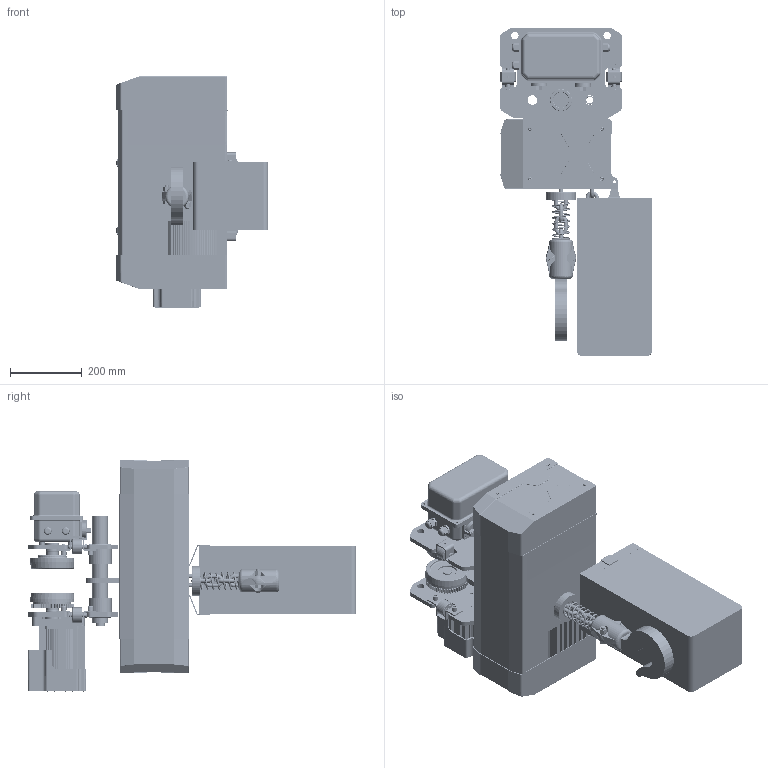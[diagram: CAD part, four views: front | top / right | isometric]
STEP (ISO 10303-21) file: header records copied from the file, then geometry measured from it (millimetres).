
FILE_DESCRIPTION(/* description */ ('CAx-IF Rec.Pracs.---Representation and Presentation of Product Manufacturing Information (PMI)---4.0---2014-10-13','CAx-IF Rec.Pracs.---3D Tessellated Geometry---0.4---2014-09-14','2;1'),/* implementation_level */ '2;1');
FILE_NAME(/* name */ 'YJ 03-01 运行式',/* time_stamp */ '2026-06-03T11:04:14+08:00',/* author */ (''),/* organization */ (''),/* preprocessor_version */ 'ST-DEVELOPER v16.7',/* originating_system */ $,/* authorisation */ $);
FILE_SCHEMA (('AP242_MANAGED_MODEL_BASED_3D_ENGINEERING_MIM_LF { 1 0 10303 442 20130219 1 4 }'));
Products named in the file (1): YJ 03-01 运行式
Bounding box: 424.82 x 916.47 x 645.3 mm (x, y, z)
Volume: 36710388.4 mm3; surface area: 4137525 mm2
Topology: 31 solids, 48 shells, 5900 faces, 15343 edges, 9476 vertices
Faces by surface type: plane 2314, cylinder 1788, bspline 1056, torus 353, cone 294, sphere 95
Full cylindrical faces by diameter (mm): 2 x4, 2.4 x8, 3.5 x4, 4.2 x1, 5 x4, 5.326 x2, 5.795 x10, 6 x7, 6.3 x8, 6.4 x10, 6.5 x2, 6.6 x8, 6.791 x1, 6.8 x4, 7.46 x1, 8.5 x4, 8.8 x4, 9 x2, 9.045 x2, 9.732 x20, 10 x14, 10.3 x13, 10.5 x4, 10.579 x2, 10.9 x4, 11.2 x34, 11.701 x2, 13 x2, 16 x16, 16.3 x4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
Entity records: 200852 total; most frequent: CARTESIAN_POINT 65483, ORIENTED_EDGE 28880, DIRECTION 25292, EDGE_CURVE 14440, VERTEX_POINT 9262, AXIS2_PLACEMENT_3D 8823, LINE 7662, VECTOR 7662
